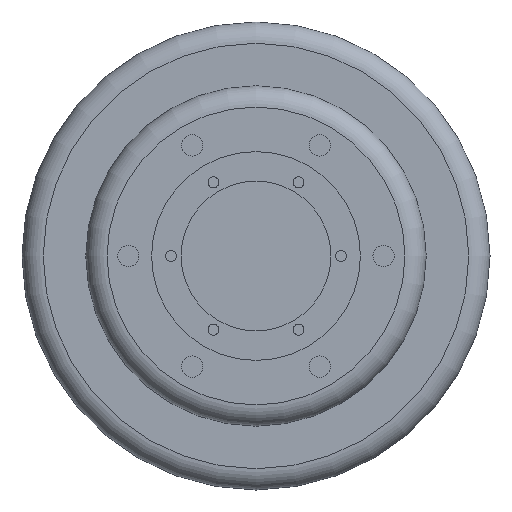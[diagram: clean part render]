
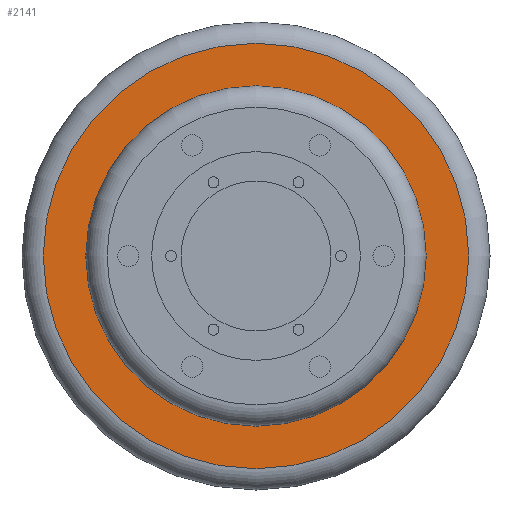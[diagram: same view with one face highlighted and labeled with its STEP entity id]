
A CAD part, front view. The second image highlights one B-rep face of the part: STEP entity #2141.
In plain terms, the highlighted planar face has unit normal (0, -1, 0).
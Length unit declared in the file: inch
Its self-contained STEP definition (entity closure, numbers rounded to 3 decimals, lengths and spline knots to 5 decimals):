
#123 = VERTEX_POINT ( 'NONE', #1700 ) ;
#166 = EDGE_LOOP ( 'NONE', ( #287 ) ) ;
#239 = EDGE_LOOP ( 'NONE', ( #640 ) ) ;
#287 = ORIENTED_EDGE ( 'NONE', *, *, #2164, .T. ) ;
#326 = CIRCLE ( 'NONE', #1994, 2.5 ) ;
#333 = CIRCLE ( 'NONE', #1997, 2. ) ;
#483 = VERTEX_POINT ( 'NONE', #1684 ) ;
#508 = FACE_BOUND ( 'NONE', #239, .T. ) ;
#517 = FACE_OUTER_BOUND ( 'NONE', #166, .T. ) ;
#640 = ORIENTED_EDGE ( 'NONE', *, *, #2182, .T. ) ;
#1168 = DIRECTION ( 'NONE',  ( 0., 1., 0. ) ) ;
#1170 = CARTESIAN_POINT ( 'NONE',  ( -3.48411, 0.35, 0. ) ) ;
#1171 = PLANE ( 'NONE',  #1940 ) ;
#1173 = DIRECTION ( 'NONE',  ( 0., 0., 1. ) ) ;
#1299 = CARTESIAN_POINT ( 'NONE',  ( 0., 0.35, 0. ) ) ;
#1300 = DIRECTION ( 'NONE',  ( 0., -1., 0. ) ) ;
#1301 = DIRECTION ( 'NONE',  ( 0., 0., 1. ) ) ;
#1340 = CARTESIAN_POINT ( 'NONE',  ( 0., 0.35, 0. ) ) ;
#1341 = DIRECTION ( 'NONE',  ( 0., 1., 0. ) ) ;
#1342 = DIRECTION ( 'NONE',  ( 0., 0., 1. ) ) ;
#1684 = CARTESIAN_POINT ( 'NONE',  ( 0., 0.35, 2.5 ) ) ;
#1700 = CARTESIAN_POINT ( 'NONE',  ( 0., 0.35, 2. ) ) ;
#1940 = AXIS2_PLACEMENT_3D ( 'NONE', #1170, #1168, #1173 ) ;
#1994 = AXIS2_PLACEMENT_3D ( 'NONE', #1299, #1300, #1301 ) ;
#1997 = AXIS2_PLACEMENT_3D ( 'NONE', #1340, #1341, #1342 ) ;
#2141 = ADVANCED_FACE ( 'NONE', ( #517, #508 ), #1171, .F. ) ;
#2164 = EDGE_CURVE ( 'NONE', #483, #483, #326, .T. ) ;
#2182 = EDGE_CURVE ( 'NONE', #123, #123, #333, .T. ) ;
